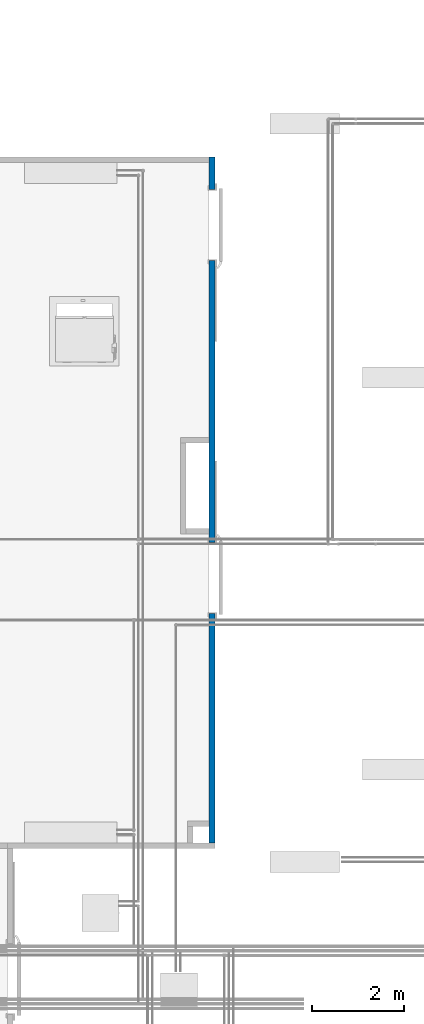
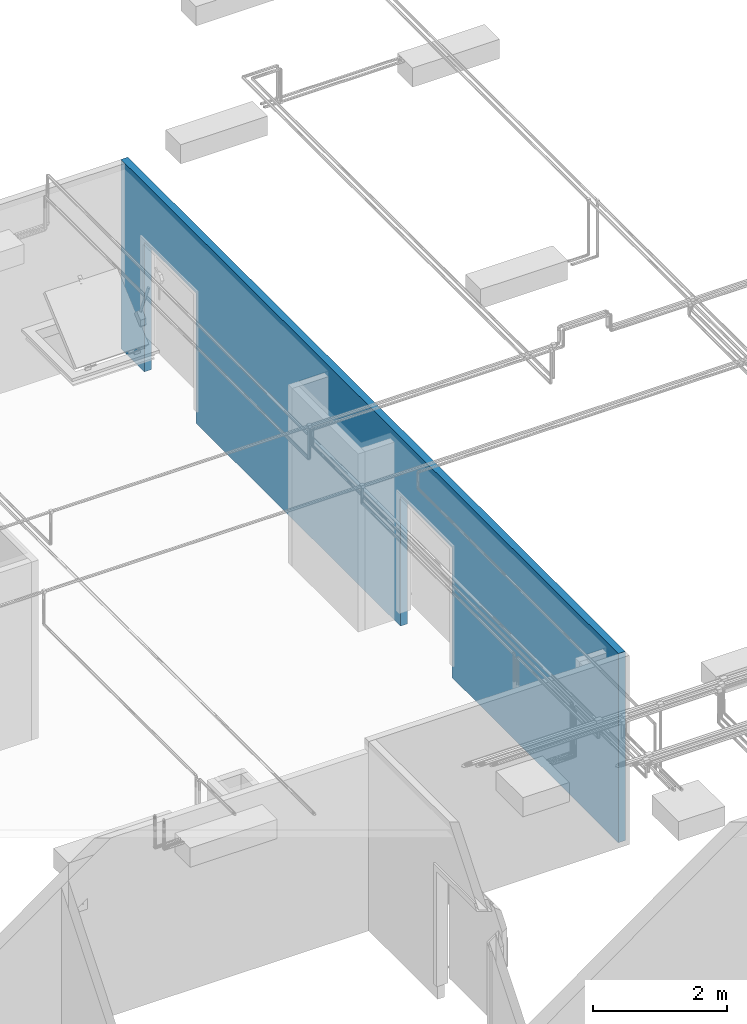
# One storey, part 28 of 652: 1 wall, 4 openings.
"""IFC2X3 building model written with IfcOpenShell, lengths in millimetres."""

from ifc_helpers import new_model, entity, si_unit, converted_unit, direction, frame, frame_2d, origin, origin_2d_with_axis, place, context, subcontext, project, spatial, rectangle, extrude, material, layer, layer_set, layer_usage, type_object, element, save


model = new_model("IFC2X3")

# Units and contexts
model_context = context("Model", 3, precision=0.01, world=frame((0.0, 0.0, 308426.39999999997)), true_north=direction((6.123233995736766e-17, 1.0)))
plan_context = context("Plan", 3, precision=0.01, world=frame((0.0, 0.0, 308426.39999999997)), true_north=direction((6.123233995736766e-17, 1.0)))
body_context = subcontext(model_context, "Body", "Model", "MODEL_VIEW")
ifc_project = project(units=[si_unit("LENGTHUNIT", "METRE", prefix="MILLI"), si_unit("AREAUNIT", "SQUARE_METRE"), si_unit("VOLUMEUNIT", "CUBIC_METRE"), converted_unit("PLANEANGLEUNIT", "DEGREE", entity("IfcPlaneAngleMeasure", 0.017453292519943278), si_unit("PLANEANGLEUNIT", "RADIAN"), dimensions=[0, 0, 0, 0, 0, 0, 0])], contexts=[model_context, plan_context])

# Site, building, storey
site_placement = place(None, origin())
site = spatial("IfcSite", under=ifc_project, at=site_placement, Name="Default", CompositionType="ELEMENT")
building_placement = place(site_placement, origin())
building = spatial("IfcBuilding", under=site, at=building_placement, CompositionType="ELEMENT")
storey_placement = place(building_placement, frame((0.0, 0.0, 1730.6999999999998)))
storey = spatial("IfcBuildingStorey", under=building, at=storey_placement, Name="EG_Produktion_FFB", CompositionType="ELEMENT", Elevation=1730.6999999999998)

# Wall, openings
ifc_material = material(Name="GPG_Paneelwand")
ifc_layer = layer(ifc_material, 120.0)
ifc_layer_set = layer_set([ifc_layer], Name="Basiswand:Kühlzellen Paneelwand 120")
ifc_layer_usage = layer_usage(ifc_layer_set, "AXIS2", "NEGATIVE", 60.0)
wall_type = type_object("IfcWallType", Name="Basiswand:Kühlzellen Paneelwand 120", PredefinedType="STANDARD", material=ifc_layer_set)
wall_placement = place(storey_placement, frame((35315.0, 78200.0, -250.0), z_axis=(0.0, 0.0, 1.0), x_axis=(0.0, -1.0, 0.0)))
wall = element("IfcWallStandardCase", 1, at=wall_placement, inside=storey, type_object=wall_type, material=ifc_layer_usage, Name="Basiswand:Kühlzellen Paneelwand 120", ObjectType="Basiswand:Kühlzellen Paneelwand 120", context=body_context, shape_type="SweptSolid", body=[
    extrude(rectangle(XDim=14862.094159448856, YDim=119.9999999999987, at=frame_2d((7431.047079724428, 2.4868995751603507e-14), x_axis=(1.0, 0.0))), origin(), (0.0, 0.0, 1.0), 3449.9999999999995),
])
opening_1_placement = place(wall_placement, frame((78200.0, -35315.0, 250.0), z_axis=(0.0, 0.0, 1.0), x_axis=(0.0, 1.0, 0.0)))
element("IfcOpeningElement", 2, at=opening_1_placement, cuts=wall, Name="Basiswand:Kühlzellen Paneelwand 120", ObjectType="Opening", context=body_context, shape_type="SweptSolid", body=[
    extrude(rectangle(XDim=2120.0, YDim=1539.9999999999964, at=origin_2d_with_axis()), frame((33731.0, 76730.0, 1060.0), z_axis=(1.0, 0.0, 0.0), x_axis=(0.0, 0.0, 1.0)), (0.0, 0.0, 1.0), 3048.0),
])
opening_2_placement = place(wall_placement, frame((78200.0, -35315.0, 250.0), z_axis=(0.0, 0.0, 1.0), x_axis=(0.0, 1.0, 0.0)))
element("IfcOpeningElement", 3, at=opening_2_placement, cuts=wall, Name="Basiswand:Kühlzellen Paneelwand 120", ObjectType="Opening", context=body_context, shape_type="SweptSolid", body=[
    extrude(rectangle(XDim=250.00000000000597, YDim=1539.9999999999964, at=origin_2d_with_axis()), frame((33851.0, 76730.0, -125.0), z_axis=(1.0, 0.0, 0.0), x_axis=(0.0, 0.0, 1.0)), (0.0, 0.0, 1.0), 3048.0),
])
opening_3_placement = place(wall_placement, frame((78200.0, -35315.0, 250.0), z_axis=(0.0, 0.0, 1.0), x_axis=(0.0, 1.0, 0.0)))
element("IfcOpeningElement", 4, at=opening_3_placement, cuts=wall, Name="Basiswand:Kühlzellen Paneelwand 120", ObjectType="Opening", context=body_context, shape_type="SweptSolid", body=[
    extrude(rectangle(XDim=2120.0, YDim=1539.9999999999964, at=frame_2d((0.0, 0.0), x_axis=(0.0, 1.0))), frame((33731.0, 69080.0, 1060.0), z_axis=(1.0, 0.0, 0.0), x_axis=(0.0, 1.0, 0.0)), (0.0, 0.0, 1.0), 3048.0),
])
opening_4_placement = place(wall_placement, frame((78200.0, -35315.0, 250.0), z_axis=(0.0, 0.0, 1.0), x_axis=(0.0, 1.0, 0.0)))
element("IfcOpeningElement", 5, at=opening_4_placement, cuts=wall, Name="Basiswand:Kühlzellen Paneelwand 120", ObjectType="Opening", context=body_context, shape_type="SweptSolid", body=[
    extrude(rectangle(XDim=250.00000000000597, YDim=1539.9999999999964, at=frame_2d((0.0, 0.0), x_axis=(0.0, 1.0))), frame((33851.0, 69080.0, -125.0), z_axis=(1.0, 0.0, 0.0), x_axis=(0.0, 1.0, 0.0)), (0.0, 0.0, 1.0), 3048.0),
])

save(model, "model.ifc")
